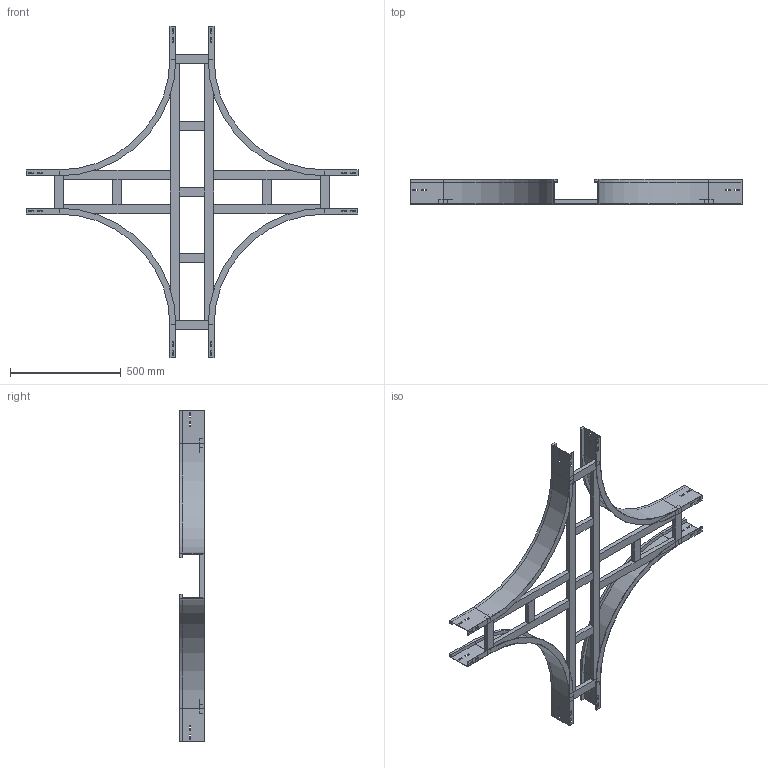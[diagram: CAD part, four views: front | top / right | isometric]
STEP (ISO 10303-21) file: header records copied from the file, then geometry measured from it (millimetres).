
FILE_DESCRIPTION (( 'STEP AP214' ), '1' );
FILE_NAME ('17B5J200.step', '2025-02-21T15:56:00', ( '' ), ( '' ), 'SwSTEP 2.0', 'SolidWorks 2023', '' );
FILE_SCHEMA (( 'AUTOMOTIVE_DESIGN' ));
Length unit declared in the file: millimetre
Products named in the file (7): TRAVERSINO_INTERMEDIO_R500+200; TRAVERSINO_COPPIA_200; LONGH.INTERNO 90°_H112.5_R500; 17B5J200; TRAVERSINO_LONG._R500+200; TRAVERSINO_VERT_R500; TRAVERSINO_200
Assembly tree (19 placements, depth 2):
  17B5J200
    LONGH.INTERNO 90°_H112.5_R500  x4
    TRAVERSINO_200  x4
    TRAVERSINO_LONG._R500+200  x2
    TRAVERSINO_INTERMEDIO_R500+200  x3
    TRAVERSINO_VERT_R500  x4
    TRAVERSINO_COPPIA_200  x2
Bounding box: 1500 x 112.5 x 1500 mm (x, y, z)
Volume: 6575750.5 mm3; surface area: 2059857.6 mm2
Topology: 19 solids, 19 shells, 322 faces, 788 edges, 504 vertices
Faces by surface type: plane 306, cylinder 16
Entity records: 2852 total; most frequent: CARTESIAN_POINT 458, DIRECTION 440, ORIENTED_EDGE 424, EDGE_CURVE 212, VECTOR 204, LINE 204, VERTEX_POINT 136, AXIS2_PLACEMENT_3D 118
